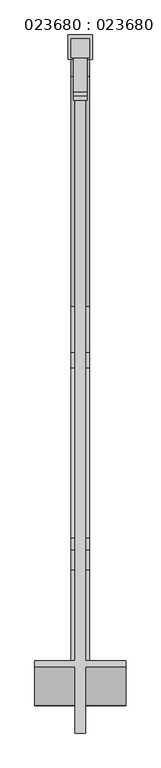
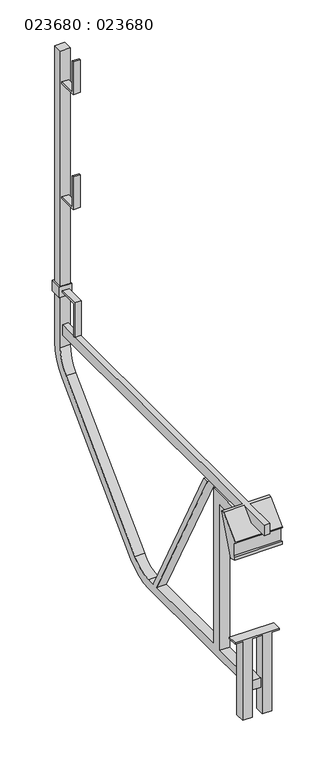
"""IFC4 building model written with IfcOpenShell, lengths in millimetres: proxy geometry, 023680 : 023680."""

from ifc_helpers import new_model, si_unit, frame, origin, place, context, project, spatial, polyline, circle_curve, faceted_brep, source, transform, mapped, element, save
from ifc_brep_helpers import plane_surface, cylinder_surface, revolved_surface, advanced_brep


def proxy_023680_023680_f2ad0c72(model_context):
    return source(origin(), model_context, "Body", "SolidModel", [
        advanced_brep(
        [(10.0, 1201.3200297, 81.6006226), (10.0, 1207.3200297, 81.6006226), (12.5, 1207.3200297, 81.6006226), (12.5, 1201.3200297, 81.6006226), (-10.0, 1207.3200297, 81.6006226), (-10.0, 1201.3200297, 81.6006226), (-12.5, 1201.3200297, 81.6006226), (-12.5, 1207.3200297, 81.6006226), (-12.5, 1207.3200297, 207.6006226), (12.5, 1207.3200297, 207.6006226), (12.5, 1201.3200297, 213.6006226), (-12.5, 1201.3200297, 213.6006226), (12.5, 1278.3200297, 207.6006226), (12.5, 1278.3200297, 213.6006226), (-12.5, 1278.3200297, 207.6006226), (-12.5, 1278.3200297, 213.6006226), (-10.0, 150.5990297, 81.6006226), (-85.5, 150.5990297, 81.6006226), (-85.5, 139.804986, 81.6006226), (-10.0, 139.804986, 81.6006226), (-10.0, 15.5000297, 81.6006226), (10.0, 15.5000297, 81.6006226), (10.0, 139.804986, 81.6006226), (85.5, 139.804986, 81.6006226), (85.5, 150.5990297, 81.6006226), (10.0, 150.5990297, 81.6006226), (10.0, 1280.8200297, 81.6006226), (-10.0, 1280.8200297, 81.6006226), (-22.6012135, 1278.3200297, 190.6006226), (-22.6012135, 1323.4246155, 190.6006226), (22.6012135, 1323.4246155, 190.6006226), (22.6012135, 1278.3200297, 190.6006226), (17.5, 1315.8200297, 190.6006226), (-17.5, 1315.8200297, 190.6006226), (-17.5, 1280.8200297, 190.6006226), (17.5, 1280.8200297, 190.6006226), (22.6012135, 1323.4246155, 230.6006226), (-22.6012135, 1323.4246155, 230.6006226), (-22.6012135, 1278.3200297, 230.6006226), (22.6012135, 1278.3200297, 230.6006226), (-17.5, 1315.8200297, 230.6006226), (17.5, 1315.8200297, 230.6006226), (17.5, 1280.8200297, 230.6006226), (-17.5, 1280.8200297, 230.6006226), (-17.5, 1280.8200297, 1131.6006226), (-17.5, 1315.8200297, 1131.6006226), (-17.5, 1315.8200297, -3.3993774), (-17.5, 1269.6893478, -114.7686954), (-17.5, 839.061318, -545.3967252), (-17.5, 727.692, -591.5274071), (-17.5, 85.692, -591.5274071), (-17.5, 85.692, -555.8993774), (-17.5, 280.8200297, -555.8993774), (-17.5, 280.8200297, 1.6006226), (-17.5, 124.8200297, 1.6006226), (-17.5, 139.3788391, 41.6006226), (-17.5, 320.8200297, 41.6006226), (-17.5, 320.8200297, -556.0364162), (-17.5, 676.58928, -556.0364162), (-17.5, 359.0547655, 41.1591488), (-17.5, 381.7061665, 41.1591488), (-17.5, 699.240681, -556.0364162), (-17.5, 727.692, -556.5274071), (-17.5, 814.3125807, -520.6479878), (-17.5, 1244.9406104, -90.0199581), (-17.5, 1280.8200297, -3.3993774), (17.5, 1280.8200297, 1131.6006226), (-12.5, 1280.8200297, 1005.6006226), (-12.5, 1280.8200297, 1011.6006226), (12.5, 1280.8200297, 1011.6006226), (12.5, 1280.8200297, 1005.6006226), (-12.5, 1280.8200297, 565.6006226), (-12.5, 1280.8200297, 571.6006226), (12.5, 1280.8200297, 571.6006226), (12.5, 1280.8200297, 565.6006226), (17.5, 1280.8200297, -3.3993774), (-10.0, 1280.8200297, 41.6006226), (10.0, 1280.8200297, 41.6006226), (17.5, 1315.8200297, 1131.6006226), (10.0, 99.2345201, 41.6006226), (-10.0, 99.2345201, 41.6006226), (-85.5, 67.4927512, 10.3051783), (85.5, 67.4927512, 10.3051783), (10.0, 136.0402204, 41.6006226), (85.5, 95.9760537, -68.4747706), (-85.5, 95.9760537, -68.4747706), (-10.0, 136.0402204, 41.6006226), (85.5, 69.4658946, -58.8258618), (-85.5, 69.4658946, -58.8258618), (85.5, 69.4658946, -47.1343405), (-85.5, 69.4658946, -47.1343405), (85.5, 77.5000186, -47.1343405), (-85.5, 77.5000186, -47.1343405), (85.5, 77.5000186, 0.0), (-85.5, 77.5000186, 0.0), (85.5, 75.526079, 2.8190779), (-85.5, 75.526079, 2.8190779), (85.5, 68.5729387, 5.349814), (-85.5, 68.5729387, 5.349814), (10.0, 15.5000297, 41.6006226), (-10.0, 15.5000297, 41.6006226), (-10.0, 320.8200297, 41.6006226), (-10.0, 139.3788391, 41.6006226), (10.0, 139.3788391, 41.6006226), (10.0, 320.8200297, 41.6006226), (17.5, 139.3788391, 41.6006226), (17.5, 320.8200297, 41.6006226), (-12.5, 1215.8200297, 1131.6006226), (12.5, 1215.8200297, 1131.6006226), (12.5, 1215.8200297, 1011.6006226), (-12.5, 1215.8200297, 1011.6006226), (12.5, 1209.8200297, 1131.6006226), (-12.5, 1209.8200297, 1131.6006226), (-12.5, 1209.8200297, 1005.6006226), (12.5, 1209.8200297, 1005.6006226), (-12.5, 1215.8200297, 691.6006226), (12.5, 1215.8200297, 691.6006226), (12.5, 1215.8200297, 571.6006226), (-12.5, 1215.8200297, 571.6006226), (12.5, 1209.8200297, 691.6006226), (-12.5, 1209.8200297, 691.6006226), (-12.5, 1209.8200297, 565.6006226), (12.5, 1209.8200297, 565.6006226), (17.5, 85.692, -591.5274071), (17.5, 85.692, -555.8993774), (17.5, 280.8200297, -555.8993774), (17.5, 280.8200297, 1.6006226), (17.5, 124.8200297, 1.6006226), (17.5, 320.8200297, -556.0364162), (17.5, 676.58928, -556.0364162), (17.5, 359.0547655, 41.1591488), (17.5, 381.7061665, 41.1591488), (17.5, 699.240681, -556.0364162), (17.5, 727.692, -556.5274071), (17.5, 814.3125807, -520.6479878), (17.5, 1244.9406104, -90.0199581), (17.5, 1315.8200297, -3.3993774), (17.5, 1269.6893478, -114.7686954), (17.5, 839.061318, -545.3967252), (17.5, 727.692, -591.5274071)],
        [
            (0, 1),
            (1, 2),
            (2, 3),
            (3, 0),
            (4, 5),
            (5, 6),
            (6, 7),
            (7, 4),
            (1, 4),
            (7, 8),
            (8, 9),
            (9, 2),
            (5, 0),
            (3, 10),
            (10, 11),
            (11, 6),
            (9, 12),
            (12, 13),
            (13, 10),
            (8, 14),
            (14, 12),
            (11, 15),
            (15, 14),
            (13, 15),
            (5, 16),
            (16, 17),
            (17, 18),
            (18, 19),
            (19, 20),
            (20, 21),
            (21, 22),
            (22, 23),
            (23, 24),
            (24, 25),
            (25, 0),
            (1, 26),
            (26, 27),
            (27, 4),
            (28, 29),
            (29, 30),
            (30, 31),
            (31, 28),
            (32, 33),
            (33, 34),
            (34, 35),
            (35, 32),
            (36, 37),
            (37, 38),
            (38, 39),
            (39, 36),
            (40, 41),
            (41, 42),
            (42, 43),
            (43, 40),
            (36, 30),
            (29, 37),
            (39, 31),
            (38, 28),
            (43, 44),
            (44, 45),
            (45, 40),
            (33, 46),
            (46, 47, circle_curve(frame((-17.5, 1158.3200297, -3.3993774), z_axis=(-1.0, 0.0, 0.0), x_axis=(0.0, 0.9238795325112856, -0.3826834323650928)), 157.5)),
            (47, 48),
            (48, 49, circle_curve(frame((-17.5, 727.692, -434.0274071), z_axis=(-1.0, 0.0, 0.0), x_axis=(0.0, 0.3826834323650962, -0.9238795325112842)), 157.5)),
            (49, 50),
            (50, 51),
            (51, 52),
            (52, 53),
            (53, 54),
            (54, 55),
            (55, 56),
            (56, 57),
            (57, 58),
            (58, 59),
            (59, 60),
            (60, 61),
            (61, 62),
            (62, 63, circle_curve(frame((-17.5, 727.692, -434.0274071), z_axis=(1.0, 0.0, 0.0), x_axis=(0.0, 0.3826834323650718, -0.9238795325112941)), 122.5)),
            (63, 64),
            (64, 65, circle_curve(frame((-17.5, 1158.3200297, -3.3993774), z_axis=(1.0, 0.0, 0.0), x_axis=(0.0, 0.9238795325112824, -0.38268343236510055)), 122.5)),
            (65, 34),
            (42, 66),
            (66, 44),
            (67, 68),
            (68, 69),
            (69, 70),
            (70, 67),
            (71, 72),
            (72, 73),
            (73, 74),
            (74, 71),
            (65, 75),
            (75, 35),
            (76, 27),
            (26, 77),
            (77, 76),
            (41, 78),
            (78, 66),
            (45, 78),
            (22, 79),
            (79, 80),
            (80, 19),
            (18, 81),
            (81, 82),
            (82, 23),
            (83, 25),
            (24, 84),
            (84, 85),
            (85, 17),
            (16, 86),
            (86, 83),
            (84, 87),
            (87, 88),
            (88, 85),
            (87, 89),
            (89, 90),
            (90, 88),
            (89, 91),
            (91, 92),
            (92, 90),
            (91, 93),
            (93, 94),
            (94, 92),
            (93, 95, circle_curve(frame((85.5, 74.5000186, 0.0), z_axis=(1.0, 0.0, 0.0), x_axis=(0.0, 0.8191520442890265, 0.5735764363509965)), 3.0)),
            (95, 96),
            (96, 94, circle_curve(frame((-85.5, 74.5000186, 0.0), z_axis=(-1.0, 0.0, 0.0), x_axis=(0.0, 0.8191520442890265, 0.5735764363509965)), 3.0)),
            (95, 97),
            (97, 98),
            (98, 96),
            (97, 82, circle_curve(frame((85.5, 69.5989991, 8.1688918), z_axis=(-1.0, 0.0, 0.0), x_axis=(0.0, -0.9770561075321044, -0.21298207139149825)), 3.0)),
            (81, 98, circle_curve(frame((-85.5, 69.5989991, 8.1688918), z_axis=(1.0, 0.0, 0.0), x_axis=(0.0, -0.9770561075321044, -0.21298207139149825)), 3.0)),
            (21, 99),
            (99, 79),
            (80, 100),
            (100, 20),
            (76, 101),
            (101, 102),
            (102, 86),
            (99, 100),
            (102, 103),
            (103, 83),
            (104, 101),
            (77, 104),
            (103, 104),
            (103, 105),
            (105, 106),
            (106, 104),
            (101, 56),
            (55, 102),
            (107, 108),
            (108, 109),
            (109, 110),
            (110, 107),
            (111, 112),
            (112, 113),
            (113, 114),
            (114, 111),
            (110, 68),
            (67, 113),
            (112, 107),
            (109, 69),
            (114, 70),
            (108, 111),
            (115, 116),
            (116, 117),
            (117, 118),
            (118, 115),
            (119, 120),
            (120, 121),
            (121, 122),
            (122, 119),
            (118, 72),
            (71, 121),
            (120, 115),
            (117, 73),
            (122, 74),
            (116, 119),
            (123, 124),
            (124, 51),
            (50, 123),
            (124, 125),
            (125, 52),
            (125, 126),
            (126, 53),
            (126, 127),
            (127, 54),
            (127, 105),
            (106, 128),
            (128, 57),
            (128, 129),
            (129, 58),
            (129, 130),
            (130, 59),
            (130, 131),
            (131, 60),
            (131, 132),
            (132, 61),
            (132, 133),
            (133, 62),
            (133, 134, circle_curve(frame((17.5, 727.692, -434.0274071), z_axis=(1.0, 0.0, 0.0), x_axis=(0.0, 0.3826834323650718, -0.9238795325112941)), 122.5)),
            (134, 63),
            (134, 135),
            (135, 64),
            (135, 75, circle_curve(frame((17.5, 1158.3200297, -3.3993774), z_axis=(1.0, 0.0, 0.0), x_axis=(0.0, 0.9238795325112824, -0.38268343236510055)), 122.5)),
            (32, 136),
            (136, 46),
            (136, 137, circle_curve(frame((17.5, 1158.3200297, -3.3993774), z_axis=(-1.0, 0.0, 0.0), x_axis=(0.0, 0.9238795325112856, -0.3826834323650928)), 157.5)),
            (137, 47),
            (137, 138),
            (138, 48),
            (138, 139, circle_curve(frame((17.5, 727.692, -434.0274071), z_axis=(-1.0, 0.0, 0.0), x_axis=(0.0, 0.3826834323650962, -0.9238795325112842)), 157.5)),
            (139, 49),
            (139, 123),
        ],
        [
            plane_surface(frame((-12.5, 1207.3200297, 81.6006226), z_axis=(0.0, 0.0, -1.0), x_axis=(1.0, 0.0, 0.0))),
            plane_surface(frame((12.5, 1207.3200297, 213.6006226), z_axis=(0.0, 1.0, 0.0), x_axis=(0.0, 0.0, -1.0))),
            plane_surface(frame((-12.5, 1201.3200297, 213.6006226), z_axis=(0.0, -1.0, 0.0), x_axis=(0.0, 0.0, 1.0))),
            plane_surface(frame((12.5, 1278.3200297, 213.6006226), z_axis=(1.0, 0.0, 0.0), x_axis=(0.0, 0.0, -1.0))),
            plane_surface(frame((12.5, 1278.3200297, 207.6006226), z_axis=(0.0, 0.0, -1.0), x_axis=(-1.0, 0.0, 0.0))),
            plane_surface(frame((-12.5, 1278.3200297, 207.6006226), z_axis=(-1.0, 0.0, 0.0), x_axis=(0.0, 0.0, 1.0))),
            plane_surface(frame((-12.5, 1278.3200297, 213.6006226), z_axis=(0.0, 0.0, 1.0), x_axis=(1.0, 0.0, 0.0))),
            plane_surface(frame((-10.0, 910.5000297, 81.6006226), z_axis=(0.0, 0.0, 1.0), x_axis=(0.0, -1.0, 0.0))),
            plane_surface(frame((0.0, 1300.8723226, 190.6006226), z_axis=(0.0, 0.0, -1.0), x_axis=(0.0, -1.0, 0.0))),
            plane_surface(frame((-22.6012135, 1323.4246155, 230.6006226), z_axis=(0.0, 0.0, 1.0), x_axis=(0.0, -1.0, 0.0))),
            plane_surface(frame((-22.6012135, 1323.4246155, 190.6006226), z_axis=(0.0, 1.0, 0.0), x_axis=(0.0, 0.0, 1.0))),
            plane_surface(frame((22.6012135, 1323.4246155, 190.6006226), z_axis=(1.0, 0.0, 0.0), x_axis=(0.0, 0.0, 1.0))),
            plane_surface(frame((22.6012135, 1278.3200297, 190.6006226), z_axis=(0.0, -1.0, 0.0), x_axis=(0.0, 0.0, -1.0))),
            plane_surface(frame((-22.6012135, 1278.3200297, 190.6006226), z_axis=(-1.0, 0.0, 0.0), x_axis=(0.0, 0.0, -1.0))),
            plane_surface(frame((-17.5, 719.6147518, -177.1496735), z_axis=(-1.0, 0.0, 0.0), x_axis=(0.0, -1.0, 0.0))),
            plane_surface(frame((-17.5, 1280.8200297, -3.3993774), z_axis=(0.0, -1.0, 0.0), x_axis=(1.0, 0.0, 0.0))),
            plane_surface(frame((17.5, 85.692, -591.5274071), z_axis=(1.0, 0.0, 0.0), x_axis=(0.0, -1.0, 0.0))),
            plane_surface(frame((-17.5, 1315.8200297, 1131.6006226), z_axis=(0.0, 1.0, 0.0), x_axis=(-1.0, 0.0, 0.0))),
            plane_surface(frame((-85.5, 67.4927512, 10.3051783), z_axis=(0.0, -0.7020826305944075, 0.7120954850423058), x_axis=(1.0, 0.0, 0.0))),
            plane_surface(frame((-85.5, 150.5990297, 81.6006226), z_axis=(0.0, 0.9396926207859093, -0.34202014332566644), x_axis=(-1.0, 0.0, 0.0))),
            plane_surface(frame((-85.5, 95.9760537, -68.4747706), z_axis=(0.0, -0.3420201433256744, -0.9396926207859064), x_axis=(-1.0, 0.0, 0.0))),
            plane_surface(frame((-85.5, 69.4658946, -58.8258618), z_axis=(0.0, -1.0, 0.0), x_axis=(1.0, 0.0, 0.0))),
            plane_surface(frame((-85.5, 69.4658946, -47.1343405), z_axis=(0.0, 0.0, 1.0), x_axis=(1.0, 0.0, 0.0))),
            plane_surface(frame((-85.5, 77.5000186, -47.1343405), z_axis=(0.0, -1.0, 0.0), x_axis=(1.0, 0.0, 0.0))),
            revolved_surface(polyline([(85.5, 76.95747473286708, 1.7207293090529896), (-85.5, 76.95747473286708, 1.7207293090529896)]), (-85.5, 74.5000186, 0.0), (1.0, 0.0, 0.0)),
            plane_surface(frame((-85.5, 75.526079, 2.8190779), z_axis=(0.0, -0.34202014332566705, -0.939692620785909), x_axis=(-1.0, 0.0, 0.0))),
            cylinder_surface(frame((-85.5, 69.5989991, 8.1688918), z_axis=(1.0, 0.0, 0.0), x_axis=(0.0, -0.9770561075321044, -0.21298207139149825)), 3.0),
            plane_surface(frame((-85.5, 86.2940808, -2.5536102), z_axis=(-1.0, 0.0, 0.0), x_axis=(0.0, -1.0, 0.0))),
            plane_surface(frame((85.5, 150.5990297, 81.6006226), z_axis=(1.0, 0.0, 0.0), x_axis=(0.0, -1.0, 0.0))),
            plane_surface(frame((10.0, 910.5000297, 81.6006226), z_axis=(1.0, 0.0, 0.0), x_axis=(0.0, 1.0, 0.0))),
            plane_surface(frame((-10.0, 910.5000297, 41.6006226), z_axis=(-1.0, 0.0, 0.0), x_axis=(0.0, -1.0, 0.0))),
            plane_surface(frame((10.0, 910.5000297, 41.6006226), z_axis=(0.0, 0.0, -1.0), x_axis=(0.0, 1.0, 0.0))),
            plane_surface(frame((10.0, 15.5000297, 41.6006226), z_axis=(0.0, -1.0, 0.0), x_axis=(-1.0, 0.0, 0.0))),
            plane_surface(frame((-17.5, 139.3788391, 41.6006226), z_axis=(0.0, 0.0, 1.0), x_axis=(1.0, 0.0, 0.0))),
            plane_surface(frame((-12.5, 1215.8200297, 1005.6006226), z_axis=(0.0, 1.0, 0.0), x_axis=(0.0, 0.0, -1.0))),
            plane_surface(frame((12.5, 1209.8200297, 1005.6006226), z_axis=(0.0, -1.0, 0.0), x_axis=(0.0, 0.0, 1.0))),
            plane_surface(frame((-12.5, 1280.8200297, 1005.6006226), z_axis=(-1.0, 0.0, 0.0), x_axis=(0.0, 0.0, 1.0))),
            plane_surface(frame((-12.5, 1280.8200297, 1011.6006226), z_axis=(0.0, 0.0, 1.0), x_axis=(0.0, 1.0, 0.0))),
            plane_surface(frame((12.5, 1280.8200297, 1011.6006226), z_axis=(1.0, 0.0, 0.0), x_axis=(0.0, 0.0, -1.0))),
            plane_surface(frame((12.5, 1280.8200297, 1005.6006226), z_axis=(0.0, 0.0, -1.0), x_axis=(0.0, -1.0, 0.0))),
            plane_surface(frame((-12.5, 1209.8200297, 1131.6006226), z_axis=(0.0, 0.0, 1.0), x_axis=(0.0, 1.0, 0.0))),
            plane_surface(frame((-12.5, 1215.8200297, 565.6006226), z_axis=(0.0, 1.0, 0.0), x_axis=(0.0, 0.0, -1.0))),
            plane_surface(frame((12.5, 1209.8200297, 565.6006226), z_axis=(0.0, -1.0, 0.0), x_axis=(0.0, 0.0, 1.0))),
            plane_surface(frame((-12.5, 1280.8200297, 565.6006226), z_axis=(-1.0, 0.0, 0.0), x_axis=(0.0, 0.0, 1.0))),
            plane_surface(frame((-12.5, 1280.8200297, 571.6006226), z_axis=(0.0, 0.0, 1.0), x_axis=(0.0, 1.0, 0.0))),
            plane_surface(frame((12.5, 1280.8200297, 571.6006226), z_axis=(1.0, 0.0, 0.0), x_axis=(0.0, 0.0, -1.0))),
            plane_surface(frame((12.5, 1280.8200297, 565.6006226), z_axis=(0.0, 0.0, -1.0), x_axis=(0.0, -1.0, 0.0))),
            plane_surface(frame((-12.5, 1209.8200297, 691.6006226), z_axis=(0.0, 0.0, 1.0), x_axis=(0.0, 1.0, 0.0))),
            plane_surface(frame((-17.5, 85.692, -591.5274071), z_axis=(0.0, -1.0, 0.0), x_axis=(1.0, 0.0, 0.0))),
            plane_surface(frame((-17.5, 85.692, -555.8993774), z_axis=(0.0, 0.0, 1.0), x_axis=(1.0, 0.0, 0.0))),
            plane_surface(frame((-17.5, 280.8200297, -555.8993774), z_axis=(0.0, -1.0, 0.0), x_axis=(1.0, 0.0, 0.0))),
            plane_surface(frame((-17.5, 280.8200297, 1.6006226), z_axis=(0.0, 0.0, -1.0), x_axis=(-1.0, 0.0, 0.0))),
            plane_surface(frame((-17.5, 124.8200297, 1.6006226), z_axis=(0.0, -0.9396926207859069, 0.34202014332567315), x_axis=(1.0, 0.0, 0.0))),
            plane_surface(frame((-17.5, 320.8200297, 41.6006226), z_axis=(0.0, 1.0, 0.0), x_axis=(-1.0, 0.0, 0.0))),
            plane_surface(frame((-17.5, 320.8200297, -556.0364162), z_axis=(0.0, 0.0, 1.0), x_axis=(1.0, 0.0, 0.0))),
            plane_surface(frame((-17.5, 676.58928, -556.0364162), z_axis=(0.0, -0.8829475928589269, -0.469471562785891), x_axis=(1.0, 0.0, 0.0))),
            plane_surface(frame((-17.5, 359.0547655, 41.1591488), z_axis=(0.0, 0.0, 1.0), x_axis=(1.0, 0.0, 0.0))),
            plane_surface(frame((-17.5, 381.7061665, 41.1591488), z_axis=(0.0, 0.882947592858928, 0.46947156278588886), x_axis=(-1.0, 0.0, 0.0))),
            plane_surface(frame((-17.5, 699.240681, -556.0364162), z_axis=(0.0, 0.017254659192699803, 0.9998511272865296), x_axis=(1.0, 0.0, 0.0))),
            revolved_surface(polyline([(17.5, 774.5707204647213, -547.2026498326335), (-17.5, 774.5707204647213, -547.2026498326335)]), (-17.5, 727.692, -434.0274071), (1.0, 0.0, 0.0)),
            plane_surface(frame((-17.5, 814.3125807, -520.6479878), z_axis=(0.0, -0.7071067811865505, 0.7071067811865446), x_axis=(1.0, 0.0, 0.0))),
            revolved_surface(polyline([(17.5, 1271.4952724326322, -50.27809786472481), (-17.5, 1271.4952724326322, -50.27809786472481)]), (-17.5, 1158.3200297, -3.3993774), (1.0, 0.0, 0.0)),
            plane_surface(frame((-17.5, 1280.8200297, 1131.6006226), z_axis=(0.0, 0.0, 1.0), x_axis=(1.0, 0.0, 0.0))),
            cylinder_surface(frame((-17.5, 1158.3200297, -3.3993774), z_axis=(1.0, 0.0, 0.0), x_axis=(0.0, 0.9238795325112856, -0.3826834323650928)), 157.5),
            plane_surface(frame((-17.5, 1269.6893478, -114.7686954), z_axis=(0.0, 0.7071067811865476, -0.7071067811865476), x_axis=(-1.0, 0.0, 0.0))),
            cylinder_surface(frame((-17.5, 727.692, -434.0274071), z_axis=(1.0, 0.0, 0.0), x_axis=(0.0, 0.3826834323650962, -0.9238795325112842)), 157.5),
            plane_surface(frame((-17.5, 727.692, -591.5274071), z_axis=(0.0, 0.0, -1.0), x_axis=(-1.0, 0.0, 0.0))),
        ],
        [
            (0, [[1, 2, 3, 4]]),
            (0, [[5, 6, 7, 8]]),
            (1, [[-2, 9, -8, 10, 11, 12]]),
            (2, [[-6, 13, -4, 14, 15, 16]]),
            (3, [[17, 18, 19, -14, -3, -12]]),
            (4, [[-11, 20, 21, -17]]),
            (5, [[22, 23, -20, -10, -7, -16]]),
            (6, [[-15, -19, 24, -22]]),
            (7, [[-13, 25, 26, 27, 28, 29, 30, 31, 32, 33, 34, 35]]),
            (7, [[-9, 36, 37, 38]]),
            (8, [[39, 40, 41, 42], [43, 44, 45, 46]]),
            (9, [[47, 48, 49, 50], [51, 52, 53, 54]]),
            (10, [[-47, 55, -40, 56]]),
            (11, [[-50, 57, -41, -55]]),
            (12, [[-49, 58, -42, -57], [-18, -21, -23, -24]]),
            (13, [[-48, -56, -39, -58]]),
            (14, [[-54, 59, 60, 61]]),
            (14, [[-44, 62, 63, 64, 65, 66, 67, 68, 69, 70, 71, 72, 73, 74, 75, 76, 77, 78, 79, 80, 81, 82]]),
            (15, [[-53, 83, 84, -59], [85, 86, 87, 88], [89, 90, 91, 92]]),
            (15, [[-45, -82, 93, 94], [95, -37, 96, 97]]),
            (16, [[-52, 98, 99, -83]]),
            (17, [[-51, -61, 100, -98]]),
            (18, [[101, 102, 103, -28, 104, 105, 106, -32]]),
            (19, [[107, -34, 108, 109, 110, -26, 111, 112]]),
            (20, [[113, 114, 115, -109]]),
            (21, [[116, 117, 118, -114]]),
            (22, [[119, 120, 121, -117]]),
            (23, [[122, 123, 124, -120]]),
            (24, [[125, 126, 127, -123]]),
            (25, [[128, 129, 130, -126]]),
            (26, [[131, -105, 132, -129]]),
            (27, [[-27, -110, -115, -118, -121, -124, -127, -130, -132, -104]]),
            (28, [[-108, -33, -106, -131, -128, -125, -122, -119, -116, -113]]),
            (29, [[-101, -31, 133, 134]]),
            (30, [[-103, 135, 136, -29]]),
            (30, [[-111, -25, -5, -38, -95, 137, 138, 139]]),
            (31, [[-102, -134, 140, -135]]),
            (31, [[-112, -139, 141, 142]]),
            (31, [[143, -137, -97, 144]]),
            (29, [[-107, -142, 145, -144, -96, -36, -1, -35]]),
            (32, [[-136, -140, -133, -30]]),
            (33, [[-145, 146, 147, 148]]),
            (33, [[-138, 149, -72, 150]]),
            (34, [[151, 152, 153, 154]]),
            (35, [[155, 156, 157, 158]]),
            (36, [[159, -85, 160, -156, 161, -154]]),
            (37, [[-153, 162, -86, -159]]),
            (38, [[163, -87, -162, -152, 164, -158]]),
            (39, [[-157, -160, -88, -163]]),
            (40, [[-151, -161, -155, -164]]),
            (41, [[165, 166, 167, 168]]),
            (42, [[169, 170, 171, 172]]),
            (43, [[173, -89, 174, -170, 175, -168]]),
            (44, [[-167, 176, -90, -173]]),
            (45, [[177, -91, -176, -166, 178, -172]]),
            (46, [[-171, -174, -92, -177]]),
            (47, [[-165, -175, -169, -178]]),
            (48, [[179, 180, -67, 181]]),
            (49, [[182, 183, -68, -180]]),
            (50, [[184, 185, -69, -183]]),
            (51, [[186, 187, -70, -185]]),
            (52, [[188, -146, -141, -150, -71, -187]]),
            (53, [[189, 190, -73, -149, -143, -148]]),
            (54, [[191, 192, -74, -190]]),
            (55, [[193, 194, -75, -192]]),
            (56, [[195, 196, -76, -194]]),
            (57, [[197, 198, -77, -196]]),
            (58, [[199, 200, -78, -198]]),
            (59, [[201, 202, -79, -200]]),
            (60, [[203, 204, -80, -202]]),
            (61, [[205, -93, -81, -204]]),
            (62, [[-99, -100, -60, -84]]),
            (17, [[-43, 206, 207, -62]]),
            (63, [[208, 209, -63, -207]]),
            (64, [[210, 211, -64, -209]]),
            (65, [[212, 213, -65, -211]]),
            (66, [[214, -181, -66, -213]]),
            (16, [[-46, -94, -205, -203, -201, -199, -197, -195, -193, -191, -189, -147, -188, -186, -184, -182, -179, -214, -212, -210, -208, -206]]),
        ],
    ),
        faceted_brep([(-53.0, 112.5, -388.3993774), (-53.0, 77.5, -388.3993774), (-80.0, 77.5, -388.3993774), (-80.0, 112.5, -388.3993774), (18.0, 112.5, -388.3993774), (18.0, 77.5, -388.3993774), (-18.0, 77.5, -388.3993774), (-18.0, 112.5, -388.3993774), (53.0, 77.5, -388.3993774), (53.0, 112.5, -388.3993774), (80.0, 112.5, -388.3993774), (80.0, 77.5, -388.3993774), (80.0, 112.5, -382.3993774), (80.0, 77.5, -382.3993774), (-80.0, 77.5, -382.3993774), (-80.0, 112.5, -382.3993774), (-53.0, 112.5, -688.3993774), (-53.0, 77.5, -688.3993774), (-18.0, 77.5, -688.3993774), (-18.0, 112.5, -688.3993774), (53.0, 77.5, -688.3993774), (53.0, 112.5, -688.3993774), (18.0, 77.5, -688.3993774), (18.0, 112.5, -688.3993774)], [[[0, 1, 2, 3]], [[4, 5, 6, 7]], [[8, 9, 10, 11]], [[12, 13, 11, 10]], [[14, 15, 3, 2]], [[13, 12, 15, 14]], [[1, 0, 16, 17]], [[7, 6, 18, 19]], [[16, 19, 18, 17]], [[9, 8, 20, 21]], [[5, 22, 20, 8, 11, 13, 14, 2, 1, 17, 18, 6]], [[5, 4, 23, 22]], [[9, 21, 23, 4, 7, 19, 16, 0, 3, 15, 12, 10]], [[23, 21, 20, 22]]]),
    ])


if __name__ == "__main__":
    model = new_model("IFC4")
    model_context = context("Model", 3, world=origin())
    ifc_project = project(units=[si_unit("LENGTHUNIT", "METRE", prefix="MILLI")], contexts=[model_context])
    site = spatial("IfcSite", under=ifc_project)
    building = spatial("IfcBuilding", under=site)
    placement = place(None, origin())
    proxy_023680_023680_shape = proxy_023680_023680_f2ad0c72(model_context)
    element("IfcBuildingElementProxy", 1, Name="023680 : 023680", ObjectType="023680 : 023680", at=placement, inside=building, context=model_context, shape_type="MappedRepresentation", body=[
        mapped(proxy_023680_023680_shape, transform((0.0, 0.0, 0.0), x_axis=(1.0, 0.0, 0.0), y_axis=(0.0, 1.0, 0.0), z_axis=(0.0, 0.0, 1.0))),
    ])
    save(model, "model.ifc")
